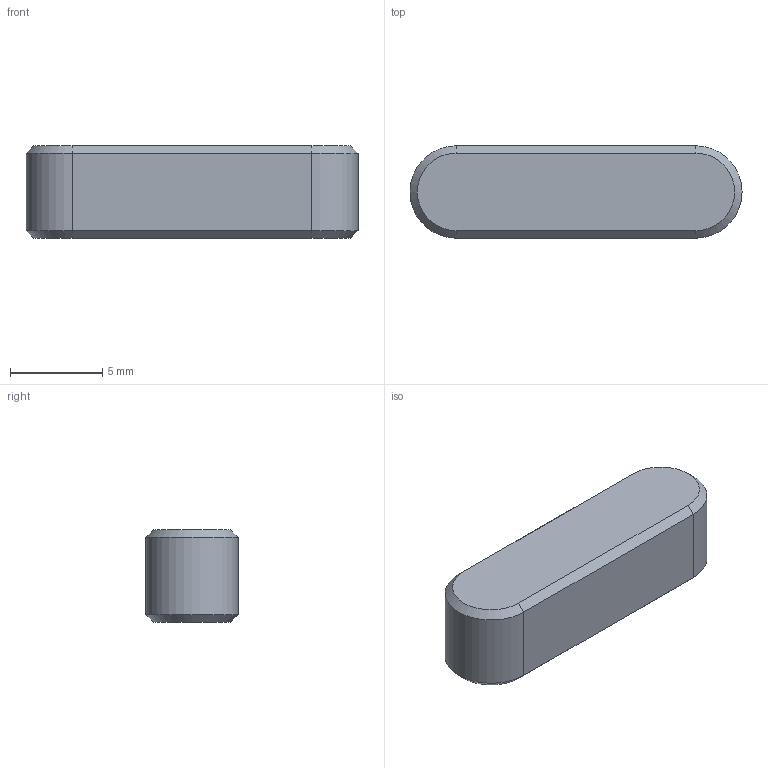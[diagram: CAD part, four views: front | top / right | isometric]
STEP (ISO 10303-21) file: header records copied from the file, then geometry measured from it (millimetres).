
FILE_DESCRIPTION(/* description */ ('키 및 해당 키홈'),/* implementation_level */ '2;1');
FILE_NAME(/* name */ '',/* time_stamp */ '2025-03-10T16:21:20+09:00',/* author */ ('jhkim'),/* organization */ (''),/* preprocessor_version */ 'ST-DEVELOPER v20',/* originating_system */ 'Autodesk Inventor 2025',/* authorisation */ '');
FILE_SCHEMA (('AUTOMOTIVE_DESIGN { 1 0 10303 214 3 1 1 }'));
Length unit declared in the file: millimetre
Products named in the file (1): 평행 키 5x5x18
Bounding box: 18 x 5 x 5 mm (x, y, z)
Volume: 416.6 mm3; surface area: 357.8 mm2
Topology: 1 solids, 1 shells, 14 faces, 28 edges, 16 vertices
Faces by surface type: plane 8, cone 4, cylinder 2
Entity records: 399 total; most frequent: DIRECTION 66, CARTESIAN_POINT 59, ORIENTED_EDGE 56, EDGE_CURVE 28, AXIS2_PLACEMENT_3D 23, LINE 20, VECTOR 20, VERTEX_POINT 16
